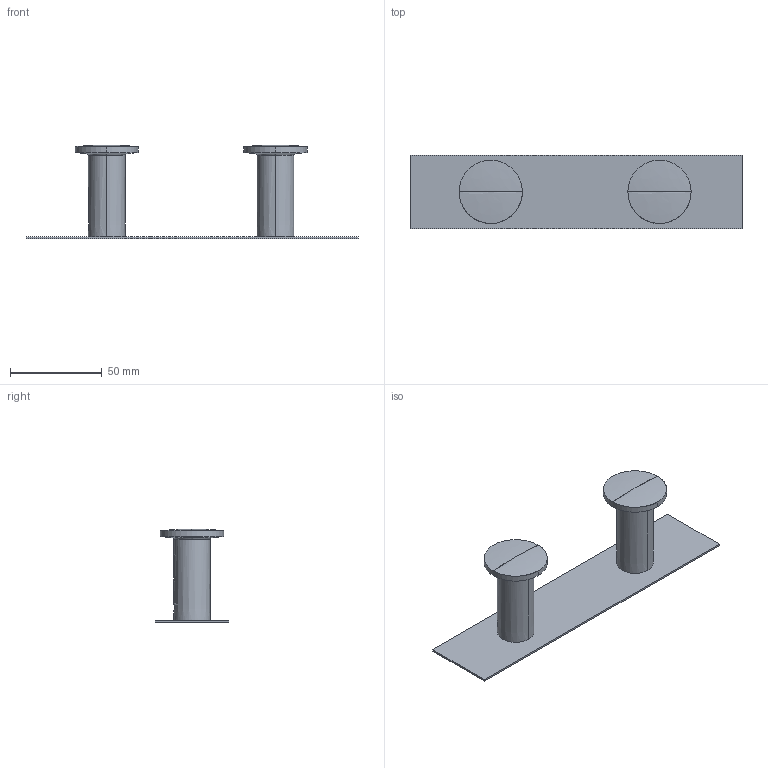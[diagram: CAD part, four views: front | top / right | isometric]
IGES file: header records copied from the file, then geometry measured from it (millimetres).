
Start section: SolidWorks IGES file using analytic representation for surfaces
Global section: file name: G:\Projects\New project\For Marketing\IGS\DXF & IGS\205__22.IGS; native system: SolidWorks 2010; preprocessor: SolidWorks 2010; author: linda; date: 151006.092633; units: millimetre
Bounding box: 181 x 40 x 51 mm (x, y, z)
Surface area: 27381.2 mm2 (no closed solid volume)
Topology: 0 solids, 0 shells, 70 faces, 720 edges, 718 vertices
Faces by surface type: revolution 56, bspline 14
